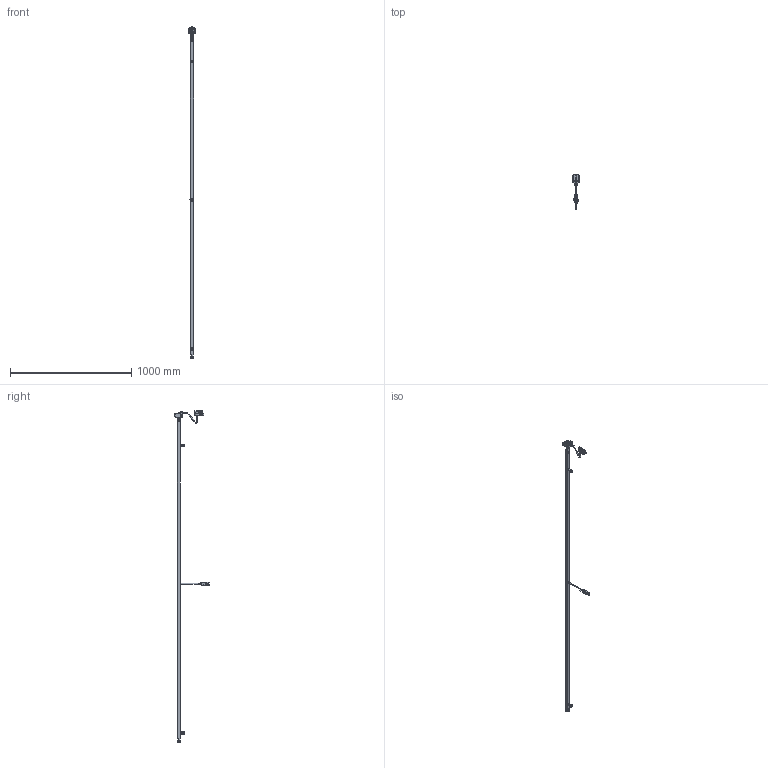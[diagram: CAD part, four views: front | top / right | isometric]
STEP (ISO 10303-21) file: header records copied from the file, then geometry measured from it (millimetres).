
FILE_DESCRIPTION (( 'STEP AP214' ), '1' );
FILE_NAME ('1001890.STEP', '2025-09-17T11:26:00', ( '' ), ( '' ), 'SwSTEP 2.0', 'SolidWorks 2025', '' );
FILE_SCHEMA (( 'AUTOMOTIVE_DESIGN' ));
Length unit declared in the file: millimetre
Products named in the file (1): 1001890
Bounding box: 54.9 x 281.1 x 2742.25 mm (x, y, z)
Volume: 1884933.6 mm3; surface area: 383159.4 mm2
Topology: 20 solids, 20 shells, 1856 faces, 4978 edges, 3237 vertices
Faces by surface type: plane 1393, cylinder 264, cone 83, bspline 62, torus 54
Entity records: 60325 total; most frequent: CARTESIAN_POINT 13607, ORIENTED_EDGE 9956, DIRECTION 9074, EDGE_CURVE 4978, VECTOR 3964, LINE 3964, VERTEX_POINT 3237, AXIS2_PLACEMENT_3D 2555
